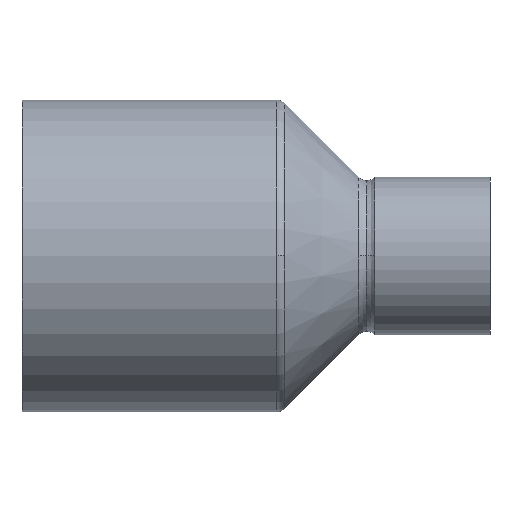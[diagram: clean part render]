
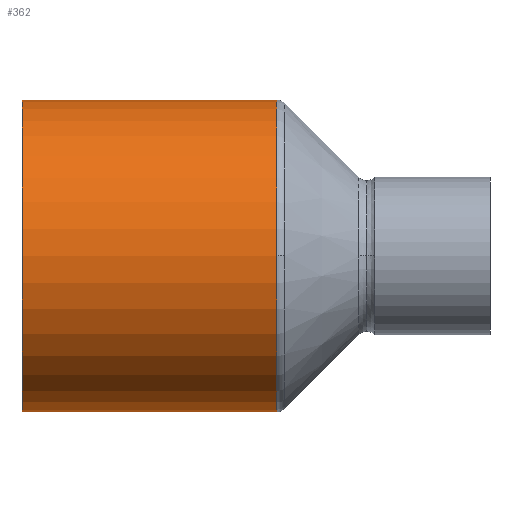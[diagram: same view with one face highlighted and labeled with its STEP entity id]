
A CAD part, top view. The second image highlights one B-rep face of the part: STEP entity #362.
In plain terms, the highlighted cylindrical face has radius 14 mm (diameter 28 mm), a partial arc.
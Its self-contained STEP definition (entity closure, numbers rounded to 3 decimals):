
#312=CARTESIAN_POINT('',(11.437,0.0,0.0));
#313=DIRECTION('',(1.0,0.0,0.0));
#314=DIRECTION('',(0.0,1.0,0.0));
#315=AXIS2_PLACEMENT_3D('',#312,#313,#314);
#316=CYLINDRICAL_SURFACE('',#315,14.0);
#317=CARTESIAN_POINT('',(0.,14.,0.0));
#318=VERTEX_POINT('',#317);
#319=CARTESIAN_POINT('',(22.873,14.0,0.0));
#320=VERTEX_POINT('',#319);
#321=CARTESIAN_POINT('',(0.,14.,0.0));
#322=DIRECTION('',(1.0,0.0,0.0));
#323=VECTOR('',#322,22.873);
#324=LINE('',#321,#323);
#325=EDGE_CURVE('',#318,#320,#324,.T.);
#326=ORIENTED_EDGE('',*,*,#325,.F.);
#327=CARTESIAN_POINT('',(0.,-14.,0.));
#328=VERTEX_POINT('',#327);
#329=CARTESIAN_POINT('',(0.,0.0,0.0));
#330=DIRECTION('',(1.0,0.0,0.0));
#331=DIRECTION('',(0.0,1.0,0.0));
#332=AXIS2_PLACEMENT_3D('',#329,#330,#331);
#333=CIRCLE('',#332,14.);
#334=EDGE_CURVE('',#318,#328,#333,.T.);
#335=ORIENTED_EDGE('',*,*,#334,.T.);
#336=CARTESIAN_POINT('',(22.873,-14.0,0.));
#337=VERTEX_POINT('',#336);
#338=CARTESIAN_POINT('',(22.873,-14.0,0.));
#339=DIRECTION('',(-1.0,0.0,0.0));
#340=VECTOR('',#339,22.873);
#341=LINE('',#338,#340);
#342=EDGE_CURVE('',#337,#328,#341,.T.);
#343=ORIENTED_EDGE('',*,*,#342,.F.);
#344=CARTESIAN_POINT('',(22.873,0.,14.0));
#345=VERTEX_POINT('',#344);
#346=CARTESIAN_POINT('',(22.873,0.0,0.0));
#347=DIRECTION('',(1.0,0.0,0.0));
#348=DIRECTION('',(0.0,1.0,0.0));
#349=AXIS2_PLACEMENT_3D('',#346,#347,#348);
#350=CIRCLE('',#349,14.0);
#351=EDGE_CURVE('',#345,#337,#350,.T.);
#352=ORIENTED_EDGE('',*,*,#351,.F.);
#353=CARTESIAN_POINT('',(22.873,0.0,0.0));
#354=DIRECTION('',(1.0,0.0,0.0));
#355=DIRECTION('',(0.0,1.0,0.0));
#356=AXIS2_PLACEMENT_3D('',#353,#354,#355);
#357=CIRCLE('',#356,14.0);
#358=EDGE_CURVE('',#320,#345,#357,.T.);
#359=ORIENTED_EDGE('',*,*,#358,.F.);
#360=EDGE_LOOP('',(#326,#335,#343,#352,#359));
#361=FACE_OUTER_BOUND('',#360,.T.);
#362=ADVANCED_FACE('',(#361),#316,.T.);
